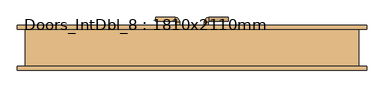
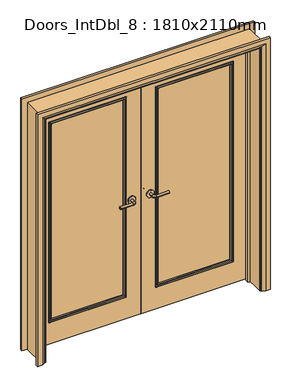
"""IFC4 building model written with IfcOpenShell, lengths in millimetres: door geometry, Doors_IntDbl_8 : 1810x2110mm."""

from ifc_helpers import new_model, si_unit, point, frame, frame_2d, origin, place, context, project, spatial, polyline, circle_curve, ellipse_curve, trimmed, segment, composite_curve, outline, extrude, faceted_brep, source, transform, mapped, element, save
from ifc_brep_helpers import plane_surface, cylinder_surface, revolved_surface, advanced_brep


def doors_intdbl_8_1810x2110mm_084b1bbc(model_context):
    return source(origin(), model_context, "Body", "SolidModel", [
        advanced_brep(
        [(-66.5, 60.0, 1007.0), (-86.5, 60.0, 1007.0), (-66.5, 30.0, 1007.0), (-86.5, 30.0, 1007.0), (-91.5, 25.0, 1007.0), (-91.5, 5.0, 1007.0), (-196.5, 5.0, 1007.0), (-196.5, 25.0, 1007.0)],
        [
            (0, 1, circle_curve(frame((-76.5, 60.0, 1007.0), z_axis=(0.0, 1.0, 0.0), x_axis=(-1.0, 0.0, 0.0)), 10.0)),
            (1, 0, circle_curve(frame((-76.5, 60.0, 1007.0), z_axis=(0.0, 1.0, 0.0), x_axis=(-1.0, 0.0, 0.0)), 10.0)),
            (0, 2),
            (2, 3, circle_curve(frame((-76.5, 30.0, 1007.0), z_axis=(0.0, 1.0, 0.0), x_axis=(-1.0, 0.0, 0.0)), 10.0)),
            (3, 1),
            (3, 2, circle_curve(frame((-76.5, 30.0, 1007.0), z_axis=(0.0, 1.0, 0.0), x_axis=(-1.0, 0.0, 0.0)), 10.0)),
            (4, 3, circle_curve(frame((-91.5, 30.0, 1007.0), z_axis=(0.0, 0.0, 1.0), x_axis=(1.0, 0.0, 0.0)), 5.0)),
            (2, 5, circle_curve(frame((-91.5, 30.0, 1007.0), z_axis=(0.0, 0.0, -1.0), x_axis=(1.0, 0.0, 0.0)), 25.0)),
            (5, 4, circle_curve(frame((-91.5, 15.0, 1007.0), z_axis=(1.0, 0.0, 0.0), x_axis=(0.0, 1.0, 0.0)), 10.0)),
            (4, 5, circle_curve(frame((-91.5, 15.0, 1007.0), z_axis=(1.0, 0.0, 0.0), x_axis=(0.0, 1.0, 0.0)), 10.0)),
            (6, 7, circle_curve(frame((-196.5, 15.0, 1007.0), z_axis=(-1.0, 0.0, 0.0), x_axis=(0.0, 1.0, 0.0)), 10.0)),
            (7, 6, circle_curve(frame((-196.5, 15.0, 1007.0), z_axis=(-1.0, 0.0, 0.0), x_axis=(0.0, 1.0, 0.0)), 10.0)),
            (5, 6),
            (7, 4),
        ],
        [
            plane_surface(frame((-76.5, 60.0, 1007.0), z_axis=(0.0, 1.0, 0.0), x_axis=(0.0, 0.0, 1.0))),
            cylinder_surface(frame((-76.5, 60.0, 1007.0), z_axis=(0.0, 1.0, 0.0), x_axis=(-1.0, 0.0, 0.0)), 10.0),
            revolved_surface(trimmed(ellipse_curve(frame((-76.5, 30.0, 1007.0), z_axis=(0.0, 1.0, 0.0), x_axis=(-1.0, 0.0, 0.0)), 10.0, 10.0), [point((-66.5, 30.0, 1007.0))], [point((-86.5, 30.0, 1007.0))], True, "CARTESIAN"), (-91.5, 30.0, 1007.0), (0.0, 0.0, -1.0)),
            revolved_surface(trimmed(ellipse_curve(frame((-76.5, 30.0, 1007.0), z_axis=(0.0, 1.0, 0.0), x_axis=(-1.0, 0.0, 0.0)), 10.0, 10.0), [point((-86.5, 30.0, 1007.0))], [point((-66.5, 30.0, 1007.0))], True, "CARTESIAN"), (-91.5, 30.0, 1007.0), (0.0, 0.0, -1.0)),
            plane_surface(frame((-196.5, 15.0, 1007.0), z_axis=(-1.0, 0.0, 0.0), x_axis=(0.0, 0.0, 1.0))),
            cylinder_surface(frame((-91.5, 15.0, 1007.0), z_axis=(1.0, 0.0, 0.0), x_axis=(0.0, 1.0, 0.0)), 10.0),
        ],
        [
            (0, [[1, 2]]),
            (1, [[-1, 3, 4, 5]]),
            (1, [[-2, -5, 6, -3]]),
            (2, [[7, -4, 8, 9]]),
            (3, [[-8, -6, -7, 10]]),
            (4, [[11, 12]]),
            (5, [[-9, 13, -12, 14]]),
            (5, [[-10, -14, -11, -13]]),
        ],
    ),
        extrude(outline(composite_curve([segment(trimmed(circle_curve(frame_2d((1007.0, -74.0)), 30.0), [point((1007.0, -44.0))], [point((1007.0, -104.0))], False, "CARTESIAN"), True, "CONTINUOUS"), segment(trimmed(circle_curve(frame_2d((1007.0, -74.0)), 30.0), [point((1007.0, -104.0))], [point((1007.0, -44.0))], False, "CARTESIAN"), True, "CONTINUOUS")], self_intersect=False)), frame((0.0, 60.0, 0.0), z_axis=(0.0, 1.0, 0.0), x_axis=(0.0, 0.0, 1.0)), (0.0, 0.0, 1.0), 8.0),
        advanced_brep(
        [(-66.5, 108.0, 1007.0), (-86.5, 108.0, 1007.0), (-86.5, 138.0, 1007.0), (-66.5, 138.0, 1007.0), (-91.5, 143.0, 1007.0), (-91.5, 163.0, 1007.0), (-196.5, 163.0, 1007.0), (-196.5, 143.0, 1007.0)],
        [
            (0, 1, circle_curve(frame((-76.5, 108.0, 1007.0), z_axis=(0.0, -1.0, 0.0), x_axis=(-1.0, 0.0, 0.0)), 10.0)),
            (1, 0, circle_curve(frame((-76.5, 108.0, 1007.0), z_axis=(0.0, -1.0, 0.0), x_axis=(-1.0, 0.0, 0.0)), 10.0)),
            (1, 2),
            (2, 3, circle_curve(frame((-76.5, 138.0, 1007.0), z_axis=(0.0, -1.0, 0.0), x_axis=(-1.0, 0.0, 0.0)), 10.0)),
            (3, 0),
            (3, 2, circle_curve(frame((-76.5, 138.0, 1007.0), z_axis=(0.0, -1.0, 0.0), x_axis=(-1.0, 0.0, 0.0)), 10.0)),
            (4, 5, circle_curve(frame((-91.5, 153.0, 1007.0), z_axis=(1.0, 0.0, 0.0), x_axis=(0.0, -1.0, 0.0)), 10.0)),
            (5, 3, circle_curve(frame((-91.5, 138.0, 1007.0), z_axis=(0.0, 0.0, -1.0), x_axis=(1.0, 0.0, 0.0)), 25.0)),
            (2, 4, circle_curve(frame((-91.5, 138.0, 1007.0), z_axis=(0.0, 0.0, 1.0), x_axis=(1.0, 0.0, 0.0)), 5.0)),
            (5, 4, circle_curve(frame((-91.5, 153.0, 1007.0), z_axis=(1.0, 0.0, 0.0), x_axis=(0.0, -1.0, 0.0)), 10.0)),
            (6, 7, circle_curve(frame((-196.5, 153.0, 1007.0), z_axis=(-1.0, 0.0, 0.0), x_axis=(0.0, -1.0, 0.0)), 10.0)),
            (7, 6, circle_curve(frame((-196.5, 153.0, 1007.0), z_axis=(-1.0, 0.0, 0.0), x_axis=(0.0, -1.0, 0.0)), 10.0)),
            (4, 7),
            (6, 5),
        ],
        [
            plane_surface(frame((-76.5, 108.0, 1007.0), z_axis=(0.0, -1.0, 0.0), x_axis=(0.0, 0.0, 1.0))),
            cylinder_surface(frame((-76.5, 108.0, 1007.0), z_axis=(0.0, -1.0, 0.0), x_axis=(-1.0, 0.0, 0.0)), 10.0),
            revolved_surface(trimmed(ellipse_curve(frame((-76.5, 138.0, 1007.0), z_axis=(0.0, 1.0, 0.0), x_axis=(-1.0, 0.0, 0.0)), 10.0, 10.0), [point((-66.5, 138.0, 1007.0))], [point((-86.5, 138.0, 1007.0))], True, "CARTESIAN"), (-91.5, 138.0, 1007.0), (0.0, 0.0, -1.0)),
            revolved_surface(trimmed(ellipse_curve(frame((-76.5, 138.0, 1007.0), z_axis=(0.0, 1.0, 0.0), x_axis=(-1.0, 0.0, 0.0)), 10.0, 10.0), [point((-86.5, 138.0, 1007.0))], [point((-66.5, 138.0, 1007.0))], True, "CARTESIAN"), (-91.5, 138.0, 1007.0), (0.0, 0.0, -1.0)),
            plane_surface(frame((-196.5, 153.0, 1007.0), z_axis=(-1.0, 0.0, 0.0), x_axis=(0.0, 0.0, 1.0))),
            cylinder_surface(frame((-91.5, 153.0, 1007.0), z_axis=(1.0, 0.0, 0.0), x_axis=(0.0, -1.0, 0.0)), 10.0),
        ],
        [
            (0, [[1, 2]]),
            (1, [[3, 4, 5, -2]]),
            (1, [[-5, 6, -3, -1]]),
            (2, [[7, 8, -4, 9]]),
            (3, [[10, -9, -6, -8]]),
            (4, [[11, 12]]),
            (5, [[13, -11, 14, -7]]),
            (5, [[-14, -12, -13, -10]]),
        ],
    ),
        extrude(outline(composite_curve([segment(trimmed(circle_curve(frame_2d((1007.0, -74.0)), 30.0), [point((1007.0, -44.0))], [point((1007.0, -104.0))], False, "CARTESIAN"), True, "CONTINUOUS"), segment(trimmed(circle_curve(frame_2d((1007.0, -74.0)), 30.0), [point((1007.0, -104.0))], [point((1007.0, -44.0))], False, "CARTESIAN"), True, "CONTINUOUS")], self_intersect=False)), frame((0.0, 100.0, 0.0), z_axis=(0.0, 1.0, 0.0), x_axis=(0.0, 0.0, 1.0)), (0.0, 0.0, 1.0), 8.0),
        advanced_brep(
        [(66.5, 60.0, 1007.0), (86.5, 60.0, 1007.0), (86.5, 30.0, 1007.0), (66.5, 30.0, 1007.0), (91.5, 25.0, 1007.0), (91.5, 5.0, 1007.0), (196.5, 5.0, 1007.0), (196.5, 25.0, 1007.0)],
        [
            (0, 1, circle_curve(frame((76.5, 60.0, 1007.0), z_axis=(0.0, 1.0, 0.0), x_axis=(1.0, 0.0, 0.0)), 10.0)),
            (1, 0, circle_curve(frame((76.5, 60.0, 1007.0), z_axis=(0.0, 1.0, 0.0), x_axis=(1.0, 0.0, 0.0)), 10.0)),
            (1, 2),
            (2, 3, circle_curve(frame((76.5, 30.0, 1007.0), z_axis=(0.0, 1.0, 0.0), x_axis=(1.0, 0.0, 0.0)), 10.0)),
            (3, 0),
            (3, 2, circle_curve(frame((76.5, 30.0, 1007.0), z_axis=(0.0, 1.0, 0.0), x_axis=(1.0, 0.0, 0.0)), 10.0)),
            (4, 5, circle_curve(frame((91.5, 15.0, 1007.0), z_axis=(-1.0, 0.0, 0.0), x_axis=(0.0, 1.0, 0.0)), 10.0)),
            (5, 3, circle_curve(frame((91.5, 30.0, 1007.0), z_axis=(0.0, 0.0, -1.0), x_axis=(-1.0, 0.0, 0.0)), 25.0)),
            (2, 4, circle_curve(frame((91.5, 30.0, 1007.0), z_axis=(0.0, 0.0, 1.0), x_axis=(-1.0, 0.0, 0.0)), 5.0)),
            (5, 4, circle_curve(frame((91.5, 15.0, 1007.0), z_axis=(-1.0, 0.0, 0.0), x_axis=(0.0, 1.0, 0.0)), 10.0)),
            (6, 7, circle_curve(frame((196.5, 15.0, 1007.0), z_axis=(1.0, 0.0, 0.0), x_axis=(0.0, 1.0, 0.0)), 10.0)),
            (7, 6, circle_curve(frame((196.5, 15.0, 1007.0), z_axis=(1.0, 0.0, 0.0), x_axis=(0.0, 1.0, 0.0)), 10.0)),
            (4, 7),
            (6, 5),
        ],
        [
            plane_surface(frame((76.5, 60.0, 1007.0), z_axis=(0.0, 1.0, 0.0), x_axis=(0.0, 0.0, 1.0))),
            cylinder_surface(frame((76.5, 60.0, 1007.0), z_axis=(0.0, 1.0, 0.0), x_axis=(1.0, 0.0, 0.0)), 10.0),
            revolved_surface(trimmed(ellipse_curve(frame((76.5, 30.0, 1007.0), z_axis=(0.0, -1.0, 0.0), x_axis=(1.0, 0.0, 0.0)), 10.0, 10.0), [point((66.5, 30.0, 1007.0))], [point((86.5, 30.0, 1007.0))], True, "CARTESIAN"), (91.5, 30.0, 1007.0), (0.0, 0.0, -1.0)),
            revolved_surface(trimmed(ellipse_curve(frame((76.5, 30.0, 1007.0), z_axis=(0.0, -1.0, 0.0), x_axis=(1.0, 0.0, 0.0)), 10.0, 10.0), [point((86.5, 30.0, 1007.0))], [point((66.5, 30.0, 1007.0))], True, "CARTESIAN"), (91.5, 30.0, 1007.0), (0.0, 0.0, -1.0)),
            plane_surface(frame((196.5, 15.0, 1007.0), z_axis=(1.0, 0.0, 0.0), x_axis=(0.0, 0.0, 1.0))),
            cylinder_surface(frame((91.5, 15.0, 1007.0), z_axis=(-1.0, 0.0, 0.0), x_axis=(0.0, 1.0, 0.0)), 10.0),
        ],
        [
            (0, [[1, 2]]),
            (1, [[3, 4, 5, -2]]),
            (1, [[-5, 6, -3, -1]]),
            (2, [[7, 8, -4, 9]]),
            (3, [[10, -9, -6, -8]]),
            (4, [[11, 12]]),
            (5, [[13, -11, 14, -7]]),
            (5, [[-14, -12, -13, -10]]),
        ],
    ),
        extrude(outline(composite_curve([segment(trimmed(circle_curve(frame_2d((1007.0, 74.0)), 30.0), [point((1007.0, 44.0))], [point((1007.0, 104.0))], False, "CARTESIAN"), True, "CONTINUOUS"), segment(trimmed(circle_curve(frame_2d((1007.0, 74.0)), 30.0), [point((1007.0, 104.0))], [point((1007.0, 44.0))], False, "CARTESIAN"), True, "CONTINUOUS")], self_intersect=False)), frame((0.0, 60.0, 0.0), z_axis=(0.0, 1.0, 0.0), x_axis=(0.0, 0.0, 1.0)), (0.0, 0.0, 1.0), 8.0),
        advanced_brep(
        [(66.5, 108.0, 1007.0), (86.5, 108.0, 1007.0), (66.5, 138.0, 1007.0), (86.5, 138.0, 1007.0), (91.5, 143.0, 1007.0), (91.5, 163.0, 1007.0), (196.5, 163.0, 1007.0), (196.5, 143.0, 1007.0)],
        [
            (0, 1, circle_curve(frame((76.5, 108.0, 1007.0), z_axis=(0.0, -1.0, 0.0), x_axis=(1.0, 0.0, 0.0)), 10.0)),
            (1, 0, circle_curve(frame((76.5, 108.0, 1007.0), z_axis=(0.0, -1.0, 0.0), x_axis=(1.0, 0.0, 0.0)), 10.0)),
            (0, 2),
            (2, 3, circle_curve(frame((76.5, 138.0, 1007.0), z_axis=(0.0, -1.0, 0.0), x_axis=(1.0, 0.0, 0.0)), 10.0)),
            (3, 1),
            (3, 2, circle_curve(frame((76.5, 138.0, 1007.0), z_axis=(0.0, -1.0, 0.0), x_axis=(1.0, 0.0, 0.0)), 10.0)),
            (4, 3, circle_curve(frame((91.5, 138.0, 1007.0), z_axis=(0.0, 0.0, 1.0), x_axis=(-1.0, 0.0, 0.0)), 5.0)),
            (2, 5, circle_curve(frame((91.5, 138.0, 1007.0), z_axis=(0.0, 0.0, -1.0), x_axis=(-1.0, 0.0, 0.0)), 25.0)),
            (5, 4, circle_curve(frame((91.5, 153.0, 1007.0), z_axis=(-1.0, 0.0, 0.0), x_axis=(0.0, -1.0, 0.0)), 10.0)),
            (4, 5, circle_curve(frame((91.5, 153.0, 1007.0), z_axis=(-1.0, 0.0, 0.0), x_axis=(0.0, -1.0, 0.0)), 10.0)),
            (6, 7, circle_curve(frame((196.5, 153.0, 1007.0), z_axis=(1.0, 0.0, 0.0), x_axis=(0.0, -1.0, 0.0)), 10.0)),
            (7, 6, circle_curve(frame((196.5, 153.0, 1007.0), z_axis=(1.0, 0.0, 0.0), x_axis=(0.0, -1.0, 0.0)), 10.0)),
            (5, 6),
            (7, 4),
        ],
        [
            plane_surface(frame((76.5, 108.0, 1007.0), z_axis=(0.0, -1.0, 0.0), x_axis=(0.0, 0.0, 1.0))),
            cylinder_surface(frame((76.5, 108.0, 1007.0), z_axis=(0.0, -1.0, 0.0), x_axis=(1.0, 0.0, 0.0)), 10.0),
            revolved_surface(trimmed(ellipse_curve(frame((76.5, 138.0, 1007.0), z_axis=(0.0, -1.0, 0.0), x_axis=(1.0, 0.0, 0.0)), 10.0, 10.0), [point((66.5, 138.0, 1007.0))], [point((86.5, 138.0, 1007.0))], True, "CARTESIAN"), (91.5, 138.0, 1007.0), (0.0, 0.0, -1.0)),
            revolved_surface(trimmed(ellipse_curve(frame((76.5, 138.0, 1007.0), z_axis=(0.0, -1.0, 0.0), x_axis=(1.0, 0.0, 0.0)), 10.0, 10.0), [point((86.5, 138.0, 1007.0))], [point((66.5, 138.0, 1007.0))], True, "CARTESIAN"), (91.5, 138.0, 1007.0), (0.0, 0.0, -1.0)),
            plane_surface(frame((196.5, 153.0, 1007.0), z_axis=(1.0, 0.0, 0.0), x_axis=(0.0, 0.0, 1.0))),
            cylinder_surface(frame((91.5, 153.0, 1007.0), z_axis=(-1.0, 0.0, 0.0), x_axis=(0.0, -1.0, 0.0)), 10.0),
        ],
        [
            (0, [[1, 2]]),
            (1, [[-1, 3, 4, 5]]),
            (1, [[-2, -5, 6, -3]]),
            (2, [[7, -4, 8, 9]]),
            (3, [[-8, -6, -7, 10]]),
            (4, [[11, 12]]),
            (5, [[-9, 13, -12, 14]]),
            (5, [[-10, -14, -11, -13]]),
        ],
    ),
        extrude(outline(composite_curve([segment(trimmed(circle_curve(frame_2d((1007.0, 74.0)), 30.0), [point((1007.0, 44.0))], [point((1007.0, 104.0))], False, "CARTESIAN"), True, "CONTINUOUS"), segment(trimmed(circle_curve(frame_2d((1007.0, 74.0)), 30.0), [point((1007.0, 104.0))], [point((1007.0, 44.0))], False, "CARTESIAN"), True, "CONTINUOUS")], self_intersect=False)), frame((0.0, 100.0, 0.0), z_axis=(0.0, 1.0, 0.0), x_axis=(0.0, 0.0, 1.0)), (0.0, 0.0, 1.0), 8.0),
        advanced_brep(
        [(-940.0, -120.0, 0.0), (-940.0, -100.0, 0.0), (-870.0, -100.0, 0.0), (-874.0, -106.0, 0.0), (-900.0, -120.0, 0.0), (-940.0, -120.0, 2145.0), (-940.0, -100.0, 2145.0), (940.0, -100.0, 2145.0), (940.0, -100.0, 0.0), (870.0, -100.0, 0.0), (870.0, -100.0, 2075.0), (-870.0, -100.0, 2075.0), (-874.0, -106.0, 2079.0), (-900.0, -120.0, 2105.0), (900.0, -120.0, 2105.0), (900.0, -120.0, 0.0), (940.0, -120.0, 0.0), (940.0, -120.0, 2145.0), (874.0, -106.0, 0.0), (874.0, -106.0, 2079.0)],
        [
            (0, 1),
            (1, 2),
            (2, 3, circle_curve(frame((-878.0, -99.0, 0.0), z_axis=(0.0, 0.0, -1.0), x_axis=(-1.0, 0.0, 0.0)), 8.0622577)),
            (3, 4),
            (4, 0),
            (0, 5),
            (5, 6),
            (6, 1),
            (6, 7),
            (7, 8),
            (8, 9),
            (9, 10),
            (10, 11),
            (11, 2),
            (11, 12, ellipse_curve(frame((-878.0, -99.0, 2083.0), z_axis=(-0.7071067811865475, 0.0, -0.7071067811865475), x_axis=(0.7071067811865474, 0.0, -0.7071067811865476)), 11.4017543, 8.0622577)),
            (12, 3),
            (12, 13),
            (13, 4),
            (13, 14),
            (14, 15),
            (15, 16),
            (16, 17),
            (17, 5),
            (7, 17),
            (16, 8),
            (15, 18),
            (18, 9, circle_curve(frame((878.0, -99.0, 0.0), z_axis=(0.0, 0.0, -1.0), x_axis=(1.0, 0.0, 0.0)), 8.0622577)),
            (19, 10, ellipse_curve(frame((878.0, -99.0, 2083.0), z_axis=(0.7071067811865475, 0.0, -0.7071067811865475), x_axis=(0.7071067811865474, 0.0, 0.7071067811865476)), 11.4017543, 8.0622577)),
            (18, 19),
            (14, 19),
            (19, 12),
        ],
        [
            plane_surface(frame((-870.0, -100.0, 0.0), z_axis=(0.0, 0.0, -1.0), x_axis=(0.0, -1.0, 0.0))),
            plane_surface(frame((-940.0, -120.0, 0.0), z_axis=(-1.0, 0.0, 0.0), x_axis=(0.0, 0.0, 1.0))),
            plane_surface(frame((-940.0, -100.0, 0.0), z_axis=(0.0, 1.0, 0.0), x_axis=(0.0, 0.0, 1.0))),
            cylinder_surface(frame((-878.0, -99.0, 0.0), z_axis=(0.0, 0.0, -1.0), x_axis=(-1.0, 0.0, 0.0)), 8.0622577),
            plane_surface(frame((-874.0, -106.0, 0.0), z_axis=(0.4740998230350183, -0.8804710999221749, 0.0), x_axis=(0.0, 0.0, 1.0))),
            plane_surface(frame((-900.0, -120.0, 0.0), z_axis=(0.0, -1.0, 0.0), x_axis=(0.0, 0.0, 1.0))),
            plane_surface(frame((940.0, -120.0, 2145.0), z_axis=(1.0, 0.0, 0.0), x_axis=(0.0, 0.0, -1.0))),
            plane_surface(frame((870.0, -100.0, 0.0), z_axis=(0.0, 0.0, -1.0), x_axis=(0.0, -1.0, 0.0))),
            cylinder_surface(frame((878.0, -99.0, 2075.0), z_axis=(0.0, 0.0, 1.0), x_axis=(1.0, 0.0, 0.0)), 8.0622577),
            plane_surface(frame((874.0, -106.0, 2079.0), z_axis=(-0.4740998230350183, -0.8804710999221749, 0.0), x_axis=(0.0, 0.0, -1.0))),
            plane_surface(frame((-940.0, -120.0, 2145.0), z_axis=(0.0, 0.0, 1.0), x_axis=(1.0, 0.0, 0.0))),
            cylinder_surface(frame((-870.0, -99.0, 2083.0), z_axis=(-1.0, 0.0, 0.0), x_axis=(0.0, 0.0, 1.0)), 8.0622577),
            plane_surface(frame((-874.0, -106.0, 2079.0), z_axis=(0.0, -0.8804710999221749, -0.4740998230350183), x_axis=(1.0, 0.0, 0.0))),
        ],
        [
            (0, [[1, 2, 3, 4, 5]]),
            (1, [[-1, 6, 7, 8]]),
            (2, [[-2, -8, 9, 10, 11, 12, 13, 14]]),
            (3, [[-3, -14, 15, 16]]),
            (4, [[-4, -16, 17, 18]]),
            (5, [[-5, -18, 19, 20, 21, 22, 23, -6]]),
            (6, [[24, -22, 25, -10]]),
            (7, [[-21, 26, 27, -11, -25]]),
            (8, [[28, -12, -27, 29]]),
            (9, [[30, -29, -26, -20]]),
            (10, [[-7, -23, -24, -9]]),
            (11, [[-15, -13, -28, 31]]),
            (12, [[-17, -31, -30, -19]]),
        ],
    ),
        advanced_brep(
        [(940.0, 120.0, 0.0), (940.0, 100.0, 0.0), (870.0, 100.0, 0.0), (874.0, 106.0, 0.0), (900.0, 120.0, 0.0), (940.0, 120.0, 2145.0), (940.0, 100.0, 2145.0), (-940.0, 100.0, 2145.0), (-940.0, 100.0, 0.0), (-870.0, 100.0, 0.0), (-870.0, 100.0, 2075.0), (870.0, 100.0, 2075.0), (874.0, 106.0, 2079.0), (900.0, 120.0, 2105.0), (-900.0, 120.0, 2105.0), (-900.0, 120.0, 0.0), (-940.0, 120.0, 0.0), (-940.0, 120.0, 2145.0), (-874.0, 106.0, 0.0), (-874.0, 106.0, 2079.0)],
        [
            (0, 1),
            (1, 2),
            (2, 3, circle_curve(frame((878.0, 99.0, 0.0), z_axis=(0.0, 0.0, -1.0), x_axis=(1.0, 0.0, 0.0)), 8.0622577)),
            (3, 4),
            (4, 0),
            (0, 5),
            (5, 6),
            (6, 1),
            (6, 7),
            (7, 8),
            (8, 9),
            (9, 10),
            (10, 11),
            (11, 2),
            (11, 12, ellipse_curve(frame((878.0, 99.0, 2083.0), z_axis=(0.7071067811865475, 0.0, -0.7071067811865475), x_axis=(-0.7071067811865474, 0.0, -0.7071067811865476)), 11.4017543, 8.0622577)),
            (12, 3),
            (12, 13),
            (13, 4),
            (13, 14),
            (14, 15),
            (15, 16),
            (16, 17),
            (17, 5),
            (7, 17),
            (16, 8),
            (15, 18),
            (18, 9, circle_curve(frame((-878.0, 99.0, 0.0), z_axis=(0.0, 0.0, -1.0), x_axis=(-1.0, 0.0, 0.0)), 8.0622577)),
            (19, 10, ellipse_curve(frame((-878.0, 99.0, 2083.0), z_axis=(-0.7071067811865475, 0.0, -0.7071067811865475), x_axis=(-0.7071067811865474, 0.0, 0.7071067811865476)), 11.4017543, 8.0622577)),
            (18, 19),
            (14, 19),
            (19, 12),
        ],
        [
            plane_surface(frame((870.0, 100.0, 0.0), z_axis=(0.0, 0.0, -1.0), x_axis=(0.0, -1.0, 0.0))),
            plane_surface(frame((940.0, 120.0, 0.0), z_axis=(1.0, 0.0, 0.0), x_axis=(0.0, 0.0, 1.0))),
            plane_surface(frame((940.0, 100.0, 0.0), z_axis=(0.0, -1.0, 0.0), x_axis=(0.0, 0.0, 1.0))),
            cylinder_surface(frame((878.0, 99.0, 0.0), z_axis=(0.0, 0.0, -1.0), x_axis=(1.0, 0.0, 0.0)), 8.0622577),
            plane_surface(frame((874.0, 106.0, 0.0), z_axis=(-0.4740998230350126, 0.8804710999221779, 0.0), x_axis=(0.0, 0.0, 1.0))),
            plane_surface(frame((900.0, 120.0, 0.0), z_axis=(0.0, 1.0, 0.0), x_axis=(0.0, 0.0, 1.0))),
            plane_surface(frame((-940.0, 120.0, 2145.0), z_axis=(-1.0, 0.0, 0.0), x_axis=(0.0, 0.0, -1.0))),
            plane_surface(frame((-870.0, 100.0, 0.0), z_axis=(0.0, 0.0, -1.0), x_axis=(0.0, -1.0, 0.0))),
            cylinder_surface(frame((-878.0, 99.0, 2075.0), z_axis=(0.0, 0.0, 1.0), x_axis=(-1.0, 0.0, 0.0)), 8.0622577),
            plane_surface(frame((-874.0, 106.0, 2079.0), z_axis=(0.4740998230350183, 0.8804710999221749, 0.0), x_axis=(0.0, 0.0, -1.0))),
            plane_surface(frame((940.0, 120.0, 2145.0), z_axis=(0.0, 0.0, 1.0), x_axis=(-1.0, 0.0, 0.0))),
            cylinder_surface(frame((870.0, 99.0, 2083.0), z_axis=(1.0, 0.0, 0.0), x_axis=(0.0, 0.0, 1.0)), 8.0622577),
            plane_surface(frame((874.0, 106.0, 2079.0), z_axis=(0.0, 0.8804710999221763, -0.4740998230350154), x_axis=(-1.0, 0.0, 0.0))),
        ],
        [
            (0, [[1, 2, 3, 4, 5]]),
            (1, [[-1, 6, 7, 8]]),
            (2, [[-2, -8, 9, 10, 11, 12, 13, 14]]),
            (3, [[-3, -14, 15, 16]]),
            (4, [[-4, -16, 17, 18]]),
            (5, [[-5, -18, 19, 20, 21, 22, 23, -6]]),
            (6, [[24, -22, 25, -10]]),
            (7, [[-21, 26, 27, -11, -25]]),
            (8, [[28, -12, -27, 29]]),
            (9, [[30, -29, -26, -20]]),
            (10, [[-7, -23, -24, -9]]),
            (11, [[-15, -13, -28, 31]]),
            (12, [[-17, -31, -30, -19]]),
        ],
    ),
        faceted_brep([(-846.0, 65.0, 0.0), (-846.0, 33.0, 0.0), (-865.0, 33.0, 0.0), (-865.0, 65.0, 0.0), (-846.0, 65.0, 2051.0), (-846.0, 33.0, 2051.0), (-865.0, 33.0, 2070.0), (-865.0, 65.0, 2070.0), (846.0, 65.0, 0.0), (865.0, 65.0, 0.0), (865.0, 33.0, 0.0), (846.0, 33.0, 0.0), (846.0, 65.0, 2051.0), (865.0, 65.0, 2070.0), (865.0, 33.0, 2070.0), (846.0, 33.0, 2051.0)], [[[0, 1, 2, 3]], [[1, 0, 4, 5]], [[2, 1, 5, 6]], [[3, 2, 6, 7]], [[0, 3, 7, 4]], [[8, 9, 10, 11]], [[12, 13, 9, 8]], [[13, 14, 10, 9]], [[14, 15, 11, 10]], [[15, 12, 8, 11]], [[5, 4, 12, 15]], [[6, 5, 15, 14]], [[7, 6, 14, 13]], [[4, 7, 13, 12]]]),
        extrude(outline(polyline([(2102.0, -897.0), (0.0, -897.0), (0.0, -865.0), (2070.0, -865.0), (2070.0, 865.0), (0.0, 865.0), (0.0, 897.0), (2102.0, 897.0), (2102.0, -897.0)])), frame((0.0, -100.0, 0.0), z_axis=(0.0, 1.0, 0.0), x_axis=(0.0, 0.0, 1.0)), (0.0, 0.0, 1.0), 200.0),
        extrude(outline(polyline([(-126.5, 78.0), (-737.0, 78.0), (-737.0, 90.0), (-126.5, 90.0), (-126.5, 78.0)])), frame((0.0, 0.0, 200.0), z_axis=(0.0, 0.0, 1.0), x_axis=(1.0, 0.0, 0.0)), (0.0, 0.0, 1.0), 1692.0),
        extrude(outline(polyline([(737.0, 78.0), (126.5, 78.0), (126.5, 90.0), (737.0, 90.0), (737.0, 78.0)])), frame((0.0, 0.0, 200.0), z_axis=(0.0, 0.0, 1.0), x_axis=(1.0, 0.0, 0.0)), (0.0, 0.0, 1.0), 1692.0),
        extrude(outline(polyline([(5.753223, -862.0), (5.753223, -1.5), (2067.0, -1.5), (2067.0, -862.0), (5.753223, -862.0)]), holes=[polyline([(1892.0, -737.0), (1892.0, -126.5), (200.0, -126.5), (200.0, -737.0), (1892.0, -737.0)])]), frame((0.0, 68.0, 0.0), z_axis=(0.0, 1.0, 0.0), x_axis=(0.0, 0.0, 1.0)), (0.0, 0.0, 1.0), 32.0),
        extrude(outline(polyline([(5.753223, 862.0), (2067.0, 862.0), (2067.0, 1.5), (5.753223, 1.5), (5.753223, 862.0)]), holes=[polyline([(1892.0, 126.5), (1892.0, 737.0), (200.0, 737.0), (200.0, 126.5), (1892.0, 126.5)])]), frame((0.0, 68.0, 0.0), z_axis=(0.0, 1.0, 0.0), x_axis=(0.0, 0.0, 1.0)), (0.0, 0.0, 1.0), 32.0),
        advanced_brep(
        [(-737.0, 90.0, 1892.0), (-737.0, 100.0, 1892.0), (-737.0, 100.0, 200.0), (-737.0, 90.0, 200.0), (-725.0, 101.0, 1880.0), (-725.0, 90.0, 1880.0), (-725.0, 90.0, 212.0), (-725.0, 101.0, 212.0), (-730.0, 106.0, 1885.0), (-730.0, 106.0, 207.0), (-745.0, 104.0, 1900.0), (-743.0, 106.0, 1898.0), (-743.0, 106.0, 194.0), (-745.0, 104.0, 192.0), (-745.0, 100.0, 1900.0), (-745.0, 100.0, 192.0), (-126.5, 100.0, 200.0), (-126.5, 90.0, 200.0), (-138.5, 90.0, 212.0), (-138.5, 101.0, 212.0), (-133.5, 106.0, 207.0), (-120.5, 106.0, 194.0), (-118.5, 104.0, 192.0), (-118.5, 100.0, 192.0), (-126.5, 100.0, 1892.0), (-126.5, 90.0, 1892.0), (-138.5, 90.0, 1880.0), (-138.5, 101.0, 1880.0), (-133.5, 106.0, 1885.0), (-120.5, 106.0, 1898.0), (-118.5, 104.0, 1900.0), (-118.5, 100.0, 1900.0)],
        [
            (0, 1),
            (1, 2),
            (2, 3),
            (3, 0),
            (4, 5),
            (5, 6),
            (6, 7),
            (7, 4),
            (8, 4, ellipse_curve(frame((-730.0, 101.0, 1885.0), z_axis=(-0.7071067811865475, 0.0, -0.7071067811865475), x_axis=(-0.7071067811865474, 0.0, 0.7071067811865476)), 7.0710678, 5.0)),
            (7, 9, ellipse_curve(frame((-730.0, 101.0, 207.0), z_axis=(-0.7071067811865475, 0.0, 0.7071067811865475), x_axis=(0.7071067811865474, 0.0, 0.7071067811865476)), 7.0710678, 5.0)),
            (9, 8),
            (10, 11, ellipse_curve(frame((-743.0, 104.0, 1898.0), z_axis=(-0.7071067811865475, 0.0, -0.7071067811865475), x_axis=(-0.7071067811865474, 0.0, 0.7071067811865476)), 2.8284271, 2.0)),
            (11, 12),
            (12, 13, ellipse_curve(frame((-743.0, 104.0, 194.0), z_axis=(-0.7071067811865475, 0.0, 0.7071067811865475), x_axis=(0.7071067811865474, 0.0, 0.7071067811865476)), 2.8284271, 2.0)),
            (13, 10),
            (14, 10),
            (13, 15),
            (15, 14),
            (2, 16),
            (16, 17),
            (17, 3),
            (6, 18),
            (18, 19),
            (19, 7),
            (19, 20, ellipse_curve(frame((-133.5, 101.0, 207.0), z_axis=(-0.7071067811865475, 0.0, -0.7071067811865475), x_axis=(-0.7071067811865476, 0.0, 0.7071067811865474)), 7.0710678, 5.0)),
            (20, 9),
            (12, 21),
            (21, 22, ellipse_curve(frame((-120.5, 104.0, 194.0), z_axis=(-0.7071067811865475, 0.0, -0.7071067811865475), x_axis=(-0.7071067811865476, 0.0, 0.7071067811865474)), 2.8284271, 2.0)),
            (22, 13),
            (22, 23),
            (23, 15),
            (16, 24),
            (24, 25),
            (25, 17),
            (18, 26),
            (26, 27),
            (27, 19),
            (27, 28, ellipse_curve(frame((-133.5, 101.0, 1885.0), z_axis=(0.7071067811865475, 0.0, -0.7071067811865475), x_axis=(-0.7071067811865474, 0.0, -0.7071067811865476)), 7.0710678, 5.0)),
            (28, 20),
            (21, 29),
            (29, 30, ellipse_curve(frame((-120.5, 104.0, 1898.0), z_axis=(0.7071067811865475, 0.0, -0.7071067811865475), x_axis=(-0.7071067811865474, 0.0, -0.7071067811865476)), 2.8284271, 2.0)),
            (30, 22),
            (30, 31),
            (31, 23),
            (31, 14),
            (1, 24),
            (0, 25),
            (5, 26),
            (4, 27),
            (8, 28),
            (11, 29),
            (10, 30),
        ],
        [
            plane_surface(frame((-737.0, 100.0, 1892.0), z_axis=(-1.0, 0.0, 0.0), x_axis=(0.0, 0.0, -1.0))),
            plane_surface(frame((-725.0, 90.0, 1880.0), z_axis=(1.0, 0.0, 0.0), x_axis=(0.0, 0.0, -1.0))),
            cylinder_surface(frame((-730.0, 101.0, 1892.0), z_axis=(0.0, 0.0, 1.0), x_axis=(-1.0, 0.0, 0.0)), 5.0),
            cylinder_surface(frame((-743.0, 104.0, 1892.0), z_axis=(0.0, 0.0, 1.0), x_axis=(-1.0, 0.0, 0.0)), 2.0),
            plane_surface(frame((-745.0, 104.0, 1900.0), z_axis=(-1.0, 0.0, 0.0), x_axis=(0.0, 0.0, -1.0))),
            plane_surface(frame((-737.0, 100.0, 200.0), z_axis=(0.0, 0.0, -1.0), x_axis=(1.0, 0.0, 0.0))),
            plane_surface(frame((-725.0, 90.0, 212.0), z_axis=(0.0, 0.0, 1.0), x_axis=(1.0, 0.0, 0.0))),
            cylinder_surface(frame((-737.0, 101.0, 207.0), z_axis=(-1.0, 0.0, 0.0), x_axis=(0.0, 0.0, -1.0)), 5.0),
            cylinder_surface(frame((-737.0, 104.0, 194.0), z_axis=(-1.0, 0.0, 0.0), x_axis=(0.0, 0.0, -1.0)), 2.0),
            plane_surface(frame((-745.0, 104.0, 192.0), z_axis=(0.0, 0.0, -1.0), x_axis=(1.0, 0.0, 0.0))),
            plane_surface(frame((-126.5, 100.0, 200.0), z_axis=(1.0, 0.0, 0.0), x_axis=(0.0, 0.0, 1.0))),
            plane_surface(frame((-138.5, 90.0, 212.0), z_axis=(-1.0, 0.0, 0.0), x_axis=(0.0, 0.0, 1.0))),
            cylinder_surface(frame((-133.5, 101.0, 200.0), z_axis=(0.0, 0.0, -1.0), x_axis=(1.0, 0.0, 0.0)), 5.0),
            cylinder_surface(frame((-120.5, 104.0, 200.0), z_axis=(0.0, 0.0, -1.0), x_axis=(1.0, 0.0, 0.0)), 2.0),
            plane_surface(frame((-118.5, 104.0, 192.0), z_axis=(1.0, 0.0, 0.0), x_axis=(0.0, 0.0, 1.0))),
            plane_surface(frame((-118.5, 100.0, 1900.0), z_axis=(0.0, -1.0, 0.0), x_axis=(-1.0, 0.0, 0.0))),
            plane_surface(frame((-126.5, 100.0, 1892.0), z_axis=(0.0, 0.0, 1.0), x_axis=(-1.0, 0.0, 0.0))),
            plane_surface(frame((-126.5, 90.0, 1892.0), z_axis=(0.0, -1.0, 0.0), x_axis=(-1.0, 0.0, 0.0))),
            plane_surface(frame((-138.5, 90.0, 1880.0), z_axis=(0.0, 0.0, -1.0), x_axis=(-1.0, 0.0, 0.0))),
            cylinder_surface(frame((-126.5, 101.0, 1885.0), z_axis=(1.0, 0.0, 0.0), x_axis=(0.0, 0.0, 1.0)), 5.0),
            plane_surface(frame((-133.5, 106.0, 1885.0), z_axis=(0.0, 1.0, 0.0), x_axis=(-1.0, 0.0, 0.0))),
            cylinder_surface(frame((-126.5, 104.0, 1898.0), z_axis=(1.0, 0.0, 0.0), x_axis=(0.0, 0.0, 1.0)), 2.0),
            plane_surface(frame((-118.5, 104.0, 1900.0), z_axis=(0.0, 0.0, 1.0), x_axis=(-1.0, 0.0, 0.0))),
        ],
        [
            (0, [[1, 2, 3, 4]]),
            (1, [[5, 6, 7, 8]]),
            (2, [[9, -8, 10, 11]]),
            (3, [[12, 13, 14, 15]]),
            (4, [[16, -15, 17, 18]]),
            (5, [[-3, 19, 20, 21]]),
            (6, [[-7, 22, 23, 24]]),
            (7, [[-10, -24, 25, 26]]),
            (8, [[-14, 27, 28, 29]]),
            (9, [[-17, -29, 30, 31]]),
            (10, [[-20, 32, 33, 34]]),
            (11, [[-23, 35, 36, 37]]),
            (12, [[-25, -37, 38, 39]]),
            (13, [[-28, 40, 41, 42]]),
            (14, [[-30, -42, 43, 44]]),
            (15, [[-31, -44, 45, -18], [46, -32, -19, -2]]),
            (16, [[-33, -46, -1, 47]]),
            (17, [[-21, -34, -47, -4], [48, -35, -22, -6]]),
            (18, [[-36, -48, -5, 49]]),
            (19, [[-38, -49, -9, 50]]),
            (20, [[51, -40, -27, -13], [-26, -39, -50, -11]]),
            (21, [[-41, -51, -12, 52]]),
            (22, [[-43, -52, -16, -45]]),
        ],
    ),
        advanced_brep(
        [(737.0, 78.0, 1892.0), (737.0, 68.0, 1892.0), (737.0, 68.0, 200.0), (737.0, 78.0, 200.0), (725.0, 67.0, 1880.0), (725.0, 78.0, 1880.0), (725.0, 78.0, 212.0), (725.0, 67.0, 212.0), (730.0, 62.0, 1885.0), (730.0, 62.0, 207.0), (745.0, 64.0, 1900.0), (743.0, 62.0, 1898.0), (743.0, 62.0, 194.0), (745.0, 64.0, 192.0), (745.0, 68.0, 1900.0), (745.0, 68.0, 192.0), (126.5, 68.0, 200.0), (126.5, 78.0, 200.0), (138.5, 78.0, 212.0), (138.5, 67.0, 212.0), (133.5, 62.0, 207.0), (120.5, 62.0, 194.0), (118.5, 64.0, 192.0), (118.5, 68.0, 192.0), (126.5, 68.0, 1892.0), (126.5, 78.0, 1892.0), (138.5, 78.0, 1880.0), (138.5, 67.0, 1880.0), (133.5, 62.0, 1885.0), (120.5, 62.0, 1898.0), (118.5, 64.0, 1900.0), (118.5, 68.0, 1900.0)],
        [
            (0, 1),
            (1, 2),
            (2, 3),
            (3, 0),
            (4, 5),
            (5, 6),
            (6, 7),
            (7, 4),
            (8, 4, ellipse_curve(frame((730.0, 67.0, 1885.0), z_axis=(0.7071067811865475, 0.0, -0.7071067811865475), x_axis=(0.7071067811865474, 0.0, 0.7071067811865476)), 7.0710678, 5.0)),
            (7, 9, ellipse_curve(frame((730.0, 67.0, 207.0), z_axis=(0.7071067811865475, 0.0, 0.7071067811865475), x_axis=(-0.7071067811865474, 0.0, 0.7071067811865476)), 7.0710678, 5.0)),
            (9, 8),
            (10, 11, ellipse_curve(frame((743.0, 64.0, 1898.0), z_axis=(0.7071067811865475, 0.0, -0.7071067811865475), x_axis=(0.7071067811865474, 0.0, 0.7071067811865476)), 2.8284271, 2.0)),
            (11, 12),
            (12, 13, ellipse_curve(frame((743.0, 64.0, 194.0), z_axis=(0.7071067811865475, 0.0, 0.7071067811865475), x_axis=(-0.7071067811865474, 0.0, 0.7071067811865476)), 2.8284271, 2.0)),
            (13, 10),
            (14, 10),
            (13, 15),
            (15, 14),
            (2, 16),
            (16, 17),
            (17, 3),
            (6, 18),
            (18, 19),
            (19, 7),
            (19, 20, ellipse_curve(frame((133.5, 67.0, 207.0), z_axis=(0.7071067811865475, 0.0, -0.7071067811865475), x_axis=(0.7071067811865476, 0.0, 0.7071067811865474)), 7.0710678, 5.0)),
            (20, 9),
            (12, 21),
            (21, 22, ellipse_curve(frame((120.5, 64.0, 194.0), z_axis=(0.7071067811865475, 0.0, -0.7071067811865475), x_axis=(0.7071067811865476, 0.0, 0.7071067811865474)), 2.8284271, 2.0)),
            (22, 13),
            (22, 23),
            (23, 15),
            (16, 24),
            (24, 25),
            (25, 17),
            (18, 26),
            (26, 27),
            (27, 19),
            (27, 28, ellipse_curve(frame((133.5, 67.0, 1885.0), z_axis=(-0.7071067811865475, 0.0, -0.7071067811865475), x_axis=(0.7071067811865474, 0.0, -0.7071067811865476)), 7.0710678, 5.0)),
            (28, 20),
            (21, 29),
            (29, 30, ellipse_curve(frame((120.5, 64.0, 1898.0), z_axis=(-0.7071067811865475, 0.0, -0.7071067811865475), x_axis=(0.7071067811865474, 0.0, -0.7071067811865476)), 2.8284271, 2.0)),
            (30, 22),
            (30, 31),
            (31, 23),
            (31, 14),
            (1, 24),
            (0, 25),
            (5, 26),
            (4, 27),
            (8, 28),
            (11, 29),
            (10, 30),
        ],
        [
            plane_surface(frame((737.0, 68.0, 1892.0), z_axis=(1.0, 0.0, 0.0), x_axis=(0.0, 0.0, -1.0))),
            plane_surface(frame((725.0, 78.0, 1880.0), z_axis=(-1.0, 0.0, 0.0), x_axis=(0.0, 0.0, -1.0))),
            cylinder_surface(frame((730.0, 67.0, 1892.0), z_axis=(0.0, 0.0, 1.0), x_axis=(1.0, 0.0, 0.0)), 5.0),
            cylinder_surface(frame((743.0, 64.0, 1892.0), z_axis=(0.0, 0.0, 1.0), x_axis=(1.0, 0.0, 0.0)), 2.0),
            plane_surface(frame((745.0, 64.0, 1900.0), z_axis=(1.0, 0.0, 0.0), x_axis=(0.0, 0.0, -1.0))),
            plane_surface(frame((737.0, 68.0, 200.0), z_axis=(0.0, 0.0, -1.0), x_axis=(-1.0, 0.0, 0.0))),
            plane_surface(frame((725.0, 78.0, 212.0), z_axis=(0.0, 0.0, 1.0), x_axis=(-1.0, 0.0, 0.0))),
            cylinder_surface(frame((737.0, 67.0, 207.0), z_axis=(1.0, 0.0, 0.0), x_axis=(0.0, 0.0, -1.0)), 5.0),
            cylinder_surface(frame((737.0, 64.0, 194.0), z_axis=(1.0, 0.0, 0.0), x_axis=(0.0, 0.0, -1.0)), 2.0),
            plane_surface(frame((745.0, 64.0, 192.0), z_axis=(0.0, 0.0, -1.0), x_axis=(-1.0, 0.0, 0.0))),
            plane_surface(frame((126.5, 68.0, 200.0), z_axis=(-1.0, 0.0, 0.0), x_axis=(0.0, 0.0, 1.0))),
            plane_surface(frame((138.5, 78.0, 212.0), z_axis=(1.0, 0.0, 0.0), x_axis=(0.0, 0.0, 1.0))),
            cylinder_surface(frame((133.5, 67.0, 200.0), z_axis=(0.0, 0.0, -1.0), x_axis=(-1.0, 0.0, 0.0)), 5.0),
            cylinder_surface(frame((120.5, 64.0, 200.0), z_axis=(0.0, 0.0, -1.0), x_axis=(-1.0, 0.0, 0.0)), 2.0),
            plane_surface(frame((118.5, 64.0, 192.0), z_axis=(-1.0, 0.0, 0.0), x_axis=(0.0, 0.0, 1.0))),
            plane_surface(frame((118.5, 68.0, 1900.0), z_axis=(0.0, 1.0, 0.0), x_axis=(1.0, 0.0, 0.0))),
            plane_surface(frame((126.5, 68.0, 1892.0), z_axis=(0.0, 0.0, 1.0), x_axis=(1.0, 0.0, 0.0))),
            plane_surface(frame((126.5, 78.0, 1892.0), z_axis=(0.0, 1.0, 0.0), x_axis=(1.0, 0.0, 0.0))),
            plane_surface(frame((138.5, 78.0, 1880.0), z_axis=(0.0, 0.0, -1.0), x_axis=(1.0, 0.0, 0.0))),
            cylinder_surface(frame((126.5, 67.0, 1885.0), z_axis=(-1.0, 0.0, 0.0), x_axis=(0.0, 0.0, 1.0)), 5.0),
            plane_surface(frame((133.5, 62.0, 1885.0), z_axis=(0.0, -1.0, 0.0), x_axis=(1.0, 0.0, 0.0))),
            cylinder_surface(frame((126.5, 64.0, 1898.0), z_axis=(-1.0, 0.0, 0.0), x_axis=(0.0, 0.0, 1.0)), 2.0),
            plane_surface(frame((118.5, 64.0, 1900.0), z_axis=(0.0, 0.0, 1.0), x_axis=(1.0, 0.0, 0.0))),
        ],
        [
            (0, [[1, 2, 3, 4]]),
            (1, [[5, 6, 7, 8]]),
            (2, [[9, -8, 10, 11]]),
            (3, [[12, 13, 14, 15]]),
            (4, [[16, -15, 17, 18]]),
            (5, [[-3, 19, 20, 21]]),
            (6, [[-7, 22, 23, 24]]),
            (7, [[-10, -24, 25, 26]]),
            (8, [[-14, 27, 28, 29]]),
            (9, [[-17, -29, 30, 31]]),
            (10, [[-20, 32, 33, 34]]),
            (11, [[-23, 35, 36, 37]]),
            (12, [[-25, -37, 38, 39]]),
            (13, [[-28, 40, 41, 42]]),
            (14, [[-30, -42, 43, 44]]),
            (15, [[-31, -44, 45, -18], [46, -32, -19, -2]]),
            (16, [[-33, -46, -1, 47]]),
            (17, [[-21, -34, -47, -4], [48, -35, -22, -6]]),
            (18, [[-36, -48, -5, 49]]),
            (19, [[-38, -49, -9, 50]]),
            (20, [[51, -40, -27, -13], [-26, -39, -50, -11]]),
            (21, [[-41, -51, -12, 52]]),
            (22, [[-43, -52, -16, -45]]),
        ],
    ),
        advanced_brep(
        [(-126.5, 78.0, 1892.0), (-126.5, 68.0, 1892.0), (-126.5, 68.0, 200.0), (-126.5, 78.0, 200.0), (-138.5, 67.0, 1880.0), (-138.5, 78.0, 1880.0), (-138.5, 78.0, 212.0), (-138.5, 67.0, 212.0), (-133.5, 62.0, 1885.0), (-133.5, 62.0, 207.0), (-118.5, 64.0, 1900.0), (-120.5, 62.0, 1898.0), (-120.5, 62.0, 194.0), (-118.5, 64.0, 192.0), (-118.5, 68.0, 1900.0), (-118.5, 68.0, 192.0), (-737.0, 68.0, 200.0), (-737.0, 78.0, 200.0), (-725.0, 78.0, 212.0), (-725.0, 67.0, 212.0), (-730.0, 62.0, 207.0), (-743.0, 62.0, 194.0), (-745.0, 64.0, 192.0), (-745.0, 68.0, 192.0), (-737.0, 68.0, 1892.0), (-737.0, 78.0, 1892.0), (-725.0, 78.0, 1880.0), (-725.0, 67.0, 1880.0), (-730.0, 62.0, 1885.0), (-743.0, 62.0, 1898.0), (-745.0, 64.0, 1900.0), (-745.0, 68.0, 1900.0)],
        [
            (0, 1),
            (1, 2),
            (2, 3),
            (3, 0),
            (4, 5),
            (5, 6),
            (6, 7),
            (7, 4),
            (8, 4, ellipse_curve(frame((-133.5, 67.0, 1885.0), z_axis=(0.7071067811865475, 0.0, -0.7071067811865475), x_axis=(0.7071067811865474, 0.0, 0.7071067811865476)), 7.0710678, 5.0)),
            (7, 9, ellipse_curve(frame((-133.5, 67.0, 207.0), z_axis=(0.7071067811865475, 0.0, 0.7071067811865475), x_axis=(-0.7071067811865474, 0.0, 0.7071067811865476)), 7.0710678, 5.0)),
            (9, 8),
            (10, 11, ellipse_curve(frame((-120.5, 64.0, 1898.0), z_axis=(0.7071067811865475, 0.0, -0.7071067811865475), x_axis=(0.7071067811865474, 0.0, 0.7071067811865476)), 2.8284271, 2.0)),
            (11, 12),
            (12, 13, ellipse_curve(frame((-120.5, 64.0, 194.0), z_axis=(0.7071067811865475, 0.0, 0.7071067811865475), x_axis=(-0.7071067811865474, 0.0, 0.7071067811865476)), 2.8284271, 2.0)),
            (13, 10),
            (14, 10),
            (13, 15),
            (15, 14),
            (2, 16),
            (16, 17),
            (17, 3),
            (6, 18),
            (18, 19),
            (19, 7),
            (19, 20, ellipse_curve(frame((-730.0, 67.0, 207.0), z_axis=(0.7071067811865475, 0.0, -0.7071067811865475), x_axis=(0.7071067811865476, 0.0, 0.7071067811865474)), 7.0710678, 5.0)),
            (20, 9),
            (12, 21),
            (21, 22, ellipse_curve(frame((-743.0, 64.0, 194.0), z_axis=(0.7071067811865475, 0.0, -0.7071067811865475), x_axis=(0.7071067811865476, 0.0, 0.7071067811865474)), 2.8284271, 2.0)),
            (22, 13),
            (22, 23),
            (23, 15),
            (16, 24),
            (24, 25),
            (25, 17),
            (18, 26),
            (26, 27),
            (27, 19),
            (27, 28, ellipse_curve(frame((-730.0, 67.0, 1885.0), z_axis=(-0.7071067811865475, 0.0, -0.7071067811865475), x_axis=(0.7071067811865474, 0.0, -0.7071067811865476)), 7.0710678, 5.0)),
            (28, 20),
            (21, 29),
            (29, 30, ellipse_curve(frame((-743.0, 64.0, 1898.0), z_axis=(-0.7071067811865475, 0.0, -0.7071067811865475), x_axis=(0.7071067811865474, 0.0, -0.7071067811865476)), 2.8284271, 2.0)),
            (30, 22),
            (30, 31),
            (31, 23),
            (31, 14),
            (1, 24),
            (0, 25),
            (5, 26),
            (4, 27),
            (8, 28),
            (11, 29),
            (10, 30),
        ],
        [
            plane_surface(frame((-126.5, 68.0, 1892.0), z_axis=(1.0, 0.0, 0.0), x_axis=(0.0, 0.0, -1.0))),
            plane_surface(frame((-138.5, 78.0, 1880.0), z_axis=(-1.0, 0.0, 0.0), x_axis=(0.0, 0.0, -1.0))),
            cylinder_surface(frame((-133.5, 67.0, 1892.0), z_axis=(0.0, 0.0, 1.0), x_axis=(1.0, 0.0, 0.0)), 5.0),
            cylinder_surface(frame((-120.5, 64.0, 1892.0), z_axis=(0.0, 0.0, 1.0), x_axis=(1.0, 0.0, 0.0)), 2.0),
            plane_surface(frame((-118.5, 64.0, 1900.0), z_axis=(1.0, 0.0, 0.0), x_axis=(0.0, 0.0, -1.0))),
            plane_surface(frame((-126.5, 68.0, 200.0), z_axis=(0.0, 0.0, -1.0), x_axis=(-1.0, 0.0, 0.0))),
            plane_surface(frame((-138.5, 78.0, 212.0), z_axis=(0.0, 0.0, 1.0), x_axis=(-1.0, 0.0, 0.0))),
            cylinder_surface(frame((-126.5, 67.0, 207.0), z_axis=(1.0, 0.0, 0.0), x_axis=(0.0, 0.0, -1.0)), 5.0),
            cylinder_surface(frame((-126.5, 64.0, 194.0), z_axis=(1.0, 0.0, 0.0), x_axis=(0.0, 0.0, -1.0)), 2.0),
            plane_surface(frame((-118.5, 64.0, 192.0), z_axis=(0.0, 0.0, -1.0), x_axis=(-1.0, 0.0, 0.0))),
            plane_surface(frame((-737.0, 68.0, 200.0), z_axis=(-1.0, 0.0, 0.0), x_axis=(0.0, 0.0, 1.0))),
            plane_surface(frame((-725.0, 78.0, 212.0), z_axis=(1.0, 0.0, 0.0), x_axis=(0.0, 0.0, 1.0))),
            cylinder_surface(frame((-730.0, 67.0, 200.0), z_axis=(0.0, 0.0, -1.0), x_axis=(-1.0, 0.0, 0.0)), 5.0),
            cylinder_surface(frame((-743.0, 64.0, 200.0), z_axis=(0.0, 0.0, -1.0), x_axis=(-1.0, 0.0, 0.0)), 2.0),
            plane_surface(frame((-745.0, 64.0, 192.0), z_axis=(-1.0, 0.0, 0.0), x_axis=(0.0, 0.0, 1.0))),
            plane_surface(frame((-745.0, 68.0, 1900.0), z_axis=(0.0, 1.0, 0.0), x_axis=(1.0, 0.0, 0.0))),
            plane_surface(frame((-737.0, 68.0, 1892.0), z_axis=(0.0, 0.0, 1.0), x_axis=(1.0, 0.0, 0.0))),
            plane_surface(frame((-737.0, 78.0, 1892.0), z_axis=(0.0, 1.0, 0.0), x_axis=(1.0, 0.0, 0.0))),
            plane_surface(frame((-725.0, 78.0, 1880.0), z_axis=(0.0, 0.0, -1.0), x_axis=(1.0, 0.0, 0.0))),
            cylinder_surface(frame((-737.0, 67.0, 1885.0), z_axis=(-1.0, 0.0, 0.0), x_axis=(0.0, 0.0, 1.0)), 5.0),
            plane_surface(frame((-730.0, 62.0, 1885.0), z_axis=(0.0, -1.0, 0.0), x_axis=(1.0, 0.0, 0.0))),
            cylinder_surface(frame((-737.0, 64.0, 1898.0), z_axis=(-1.0, 0.0, 0.0), x_axis=(0.0, 0.0, 1.0)), 2.0),
            plane_surface(frame((-745.0, 64.0, 1900.0), z_axis=(0.0, 0.0, 1.0), x_axis=(1.0, 0.0, 0.0))),
        ],
        [
            (0, [[1, 2, 3, 4]]),
            (1, [[5, 6, 7, 8]]),
            (2, [[9, -8, 10, 11]]),
            (3, [[12, 13, 14, 15]]),
            (4, [[16, -15, 17, 18]]),
            (5, [[-3, 19, 20, 21]]),
            (6, [[-7, 22, 23, 24]]),
            (7, [[-10, -24, 25, 26]]),
            (8, [[-14, 27, 28, 29]]),
            (9, [[-17, -29, 30, 31]]),
            (10, [[-20, 32, 33, 34]]),
            (11, [[-23, 35, 36, 37]]),
            (12, [[-25, -37, 38, 39]]),
            (13, [[-28, 40, 41, 42]]),
            (14, [[-30, -42, 43, 44]]),
            (15, [[-31, -44, 45, -18], [46, -32, -19, -2]]),
            (16, [[-33, -46, -1, 47]]),
            (17, [[-21, -34, -47, -4], [48, -35, -22, -6]]),
            (18, [[-36, -48, -5, 49]]),
            (19, [[-38, -49, -9, 50]]),
            (20, [[51, -40, -27, -13], [-26, -39, -50, -11]]),
            (21, [[-41, -51, -12, 52]]),
            (22, [[-43, -52, -16, -45]]),
        ],
    ),
        advanced_brep(
        [(118.5, 104.0, 192.0), (118.5, 100.0, 192.0), (118.5, 100.0, 1900.0), (118.5, 104.0, 1900.0), (120.5, 106.0, 194.0), (120.5, 106.0, 1898.0), (138.5, 101.0, 212.0), (133.5, 106.0, 207.0), (133.5, 106.0, 1885.0), (138.5, 101.0, 1880.0), (138.5, 90.0, 212.0), (138.5, 90.0, 1880.0), (126.5, 100.0, 200.0), (126.5, 90.0, 200.0), (126.5, 90.0, 1892.0), (126.5, 100.0, 1892.0), (745.0, 100.0, 1900.0), (745.0, 104.0, 1900.0), (743.0, 106.0, 1898.0), (730.0, 106.0, 1885.0), (725.0, 101.0, 1880.0), (725.0, 90.0, 1880.0), (737.0, 90.0, 1892.0), (737.0, 100.0, 1892.0), (745.0, 100.0, 192.0), (745.0, 104.0, 192.0), (743.0, 106.0, 194.0), (730.0, 106.0, 207.0), (725.0, 101.0, 212.0), (725.0, 90.0, 212.0), (737.0, 90.0, 200.0), (737.0, 100.0, 200.0)],
        [
            (0, 1),
            (1, 2),
            (2, 3),
            (3, 0),
            (4, 0, ellipse_curve(frame((120.5, 104.0, 194.0), z_axis=(-0.7071067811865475, 0.0, 0.7071067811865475), x_axis=(-0.7071067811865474, 0.0, -0.7071067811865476)), 2.8284271, 2.0)),
            (3, 5, ellipse_curve(frame((120.5, 104.0, 1898.0), z_axis=(-0.7071067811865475, 0.0, -0.7071067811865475), x_axis=(0.7071067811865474, 0.0, -0.7071067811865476)), 2.8284271, 2.0)),
            (5, 4),
            (6, 7, ellipse_curve(frame((133.5, 101.0, 207.0), z_axis=(-0.7071067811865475, 0.0, 0.7071067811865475), x_axis=(-0.7071067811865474, 0.0, -0.7071067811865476)), 7.0710678, 5.0)),
            (7, 8),
            (8, 9, ellipse_curve(frame((133.5, 101.0, 1885.0), z_axis=(-0.7071067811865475, 0.0, -0.7071067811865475), x_axis=(0.7071067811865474, 0.0, -0.7071067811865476)), 7.0710678, 5.0)),
            (9, 6),
            (10, 6),
            (9, 11),
            (11, 10),
            (12, 13),
            (13, 14),
            (14, 15),
            (15, 12),
            (2, 16),
            (16, 17),
            (17, 3),
            (17, 18, ellipse_curve(frame((743.0, 104.0, 1898.0), z_axis=(-0.7071067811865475, 0.0, 0.7071067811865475), x_axis=(-0.7071067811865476, 0.0, -0.7071067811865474)), 2.8284271, 2.0)),
            (18, 5),
            (8, 19),
            (19, 20, ellipse_curve(frame((730.0, 101.0, 1885.0), z_axis=(-0.7071067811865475, 0.0, 0.7071067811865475), x_axis=(-0.7071067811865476, 0.0, -0.7071067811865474)), 7.0710678, 5.0)),
            (20, 9),
            (20, 21),
            (21, 11),
            (14, 22),
            (22, 23),
            (23, 15),
            (16, 24),
            (24, 25),
            (25, 17),
            (25, 26, ellipse_curve(frame((743.0, 104.0, 194.0), z_axis=(0.7071067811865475, 0.0, 0.7071067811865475), x_axis=(-0.7071067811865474, 0.0, 0.7071067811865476)), 2.8284271, 2.0)),
            (26, 18),
            (19, 27),
            (27, 28, ellipse_curve(frame((730.0, 101.0, 207.0), z_axis=(0.7071067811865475, 0.0, 0.7071067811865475), x_axis=(-0.7071067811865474, 0.0, 0.7071067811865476)), 7.0710678, 5.0)),
            (28, 20),
            (28, 29),
            (29, 21),
            (22, 30),
            (30, 31),
            (31, 23),
            (24, 1),
            (0, 25),
            (4, 26),
            (7, 27),
            (6, 28),
            (10, 29),
            (13, 30),
            (12, 31),
        ],
        [
            plane_surface(frame((118.5, 100.0, 192.0), z_axis=(-1.0, 0.0, 0.0), x_axis=(0.0, 0.0, 1.0))),
            cylinder_surface(frame((120.5, 104.0, 200.0), z_axis=(0.0, 0.0, -1.0), x_axis=(-1.0, 0.0, 0.0)), 2.0),
            cylinder_surface(frame((133.5, 101.0, 200.0), z_axis=(0.0, 0.0, -1.0), x_axis=(-1.0, 0.0, 0.0)), 5.0),
            plane_surface(frame((138.5, 101.0, 212.0), z_axis=(1.0, 0.0, 0.0), x_axis=(0.0, 0.0, 1.0))),
            plane_surface(frame((126.5, 90.0, 200.0), z_axis=(-1.0, 0.0, 0.0), x_axis=(0.0, 0.0, 1.0))),
            plane_surface(frame((118.5, 100.0, 1900.0), z_axis=(0.0, 0.0, 1.0), x_axis=(1.0, 0.0, 0.0))),
            cylinder_surface(frame((126.5, 104.0, 1898.0), z_axis=(-1.0, 0.0, 0.0), x_axis=(0.0, 0.0, 1.0)), 2.0),
            cylinder_surface(frame((126.5, 101.0, 1885.0), z_axis=(-1.0, 0.0, 0.0), x_axis=(0.0, 0.0, 1.0)), 5.0),
            plane_surface(frame((138.5, 101.0, 1880.0), z_axis=(0.0, 0.0, -1.0), x_axis=(1.0, 0.0, 0.0))),
            plane_surface(frame((126.5, 90.0, 1892.0), z_axis=(0.0, 0.0, 1.0), x_axis=(1.0, 0.0, 0.0))),
            plane_surface(frame((745.0, 100.0, 1900.0), z_axis=(1.0, 0.0, 0.0), x_axis=(0.0, 0.0, -1.0))),
            cylinder_surface(frame((743.0, 104.0, 1892.0), z_axis=(0.0, 0.0, 1.0), x_axis=(1.0, 0.0, 0.0)), 2.0),
            cylinder_surface(frame((730.0, 101.0, 1892.0), z_axis=(0.0, 0.0, 1.0), x_axis=(1.0, 0.0, 0.0)), 5.0),
            plane_surface(frame((725.0, 101.0, 1880.0), z_axis=(-1.0, 0.0, 0.0), x_axis=(0.0, 0.0, -1.0))),
            plane_surface(frame((737.0, 90.0, 1892.0), z_axis=(1.0, 0.0, 0.0), x_axis=(0.0, 0.0, -1.0))),
            plane_surface(frame((745.0, 100.0, 192.0), z_axis=(0.0, 0.0, -1.0), x_axis=(-1.0, 0.0, 0.0))),
            cylinder_surface(frame((737.0, 104.0, 194.0), z_axis=(1.0, 0.0, 0.0), x_axis=(0.0, 0.0, -1.0)), 2.0),
            plane_surface(frame((743.0, 106.0, 194.0), z_axis=(0.0, 1.0, 0.0), x_axis=(-1.0, 0.0, 0.0))),
            cylinder_surface(frame((737.0, 101.0, 207.0), z_axis=(1.0, 0.0, 0.0), x_axis=(0.0, 0.0, -1.0)), 5.0),
            plane_surface(frame((725.0, 101.0, 212.0), z_axis=(0.0, 0.0, 1.0), x_axis=(-1.0, 0.0, 0.0))),
            plane_surface(frame((725.0, 90.0, 212.0), z_axis=(0.0, -1.0, 0.0), x_axis=(-1.0, 0.0, 0.0))),
            plane_surface(frame((737.0, 90.0, 200.0), z_axis=(0.0, 0.0, -1.0), x_axis=(-1.0, 0.0, 0.0))),
            plane_surface(frame((737.0, 100.0, 200.0), z_axis=(0.0, -1.0, 0.0), x_axis=(-1.0, 0.0, 0.0))),
        ],
        [
            (0, [[1, 2, 3, 4]]),
            (1, [[5, -4, 6, 7]]),
            (2, [[8, 9, 10, 11]]),
            (3, [[12, -11, 13, 14]]),
            (4, [[15, 16, 17, 18]]),
            (5, [[-3, 19, 20, 21]]),
            (6, [[-6, -21, 22, 23]]),
            (7, [[-10, 24, 25, 26]]),
            (8, [[-13, -26, 27, 28]]),
            (9, [[-17, 29, 30, 31]]),
            (10, [[-20, 32, 33, 34]]),
            (11, [[-22, -34, 35, 36]]),
            (12, [[-25, 37, 38, 39]]),
            (13, [[-27, -39, 40, 41]]),
            (14, [[-30, 42, 43, 44]]),
            (15, [[-33, 45, -1, 46]]),
            (16, [[-35, -46, -5, 47]]),
            (17, [[-23, -36, -47, -7], [48, -37, -24, -9]]),
            (18, [[-38, -48, -8, 49]]),
            (19, [[-40, -49, -12, 50]]),
            (20, [[51, -42, -29, -16], [-28, -41, -50, -14]]),
            (21, [[-43, -51, -15, 52]]),
            (22, [[-45, -32, -19, -2], [-31, -44, -52, -18]]),
        ],
    ),
        extrude(outline(polyline([(200.0, 421.75), (200.0, 441.75), (528.4, 441.75), (528.4, 737.0), (548.4, 737.0), (548.4, 441.75), (866.8, 441.75), (866.8, 737.0), (886.8, 737.0), (886.8, 441.75), (1205.2, 441.75), (1205.2, 737.0), (1225.2, 737.0), (1225.2, 441.75), (1543.6, 441.75), (1543.6, 737.0), (1563.6, 737.0), (1563.6, 441.75), (1892.0, 441.75), (1892.0, 421.75), (1563.6, 421.75), (1563.6, 126.5), (1543.6, 126.5), (1543.6, 421.75), (1225.2, 421.75), (1225.2, 126.5), (1205.2, 126.5), (1205.2, 421.75), (886.8, 421.75), (886.8, 126.5), (866.8, 126.5), (866.8, 421.75), (548.4, 421.75), (548.4, 126.5), (528.4, 126.5), (528.4, 421.75), (200.0, 421.75)])), frame((0.0, 82.0, 0.0), z_axis=(0.0, 1.0, 0.0), x_axis=(0.0, 0.0, 1.0)), (0.0, 0.0, 1.0), 4.0),
        extrude(outline(polyline([(200.0, -441.75), (200.0, -421.75), (528.4, -421.75), (528.4, -126.5), (548.4, -126.5), (548.4, -421.75), (866.8, -421.75), (866.8, -126.5), (886.8, -126.5), (886.8, -421.75), (1205.2, -421.75), (1205.2, -126.5), (1225.2, -126.5), (1225.2, -421.75), (1543.6, -421.75), (1543.6, -126.5), (1563.6, -126.5), (1563.6, -421.75), (1892.0, -421.75), (1892.0, -441.75), (1563.6, -441.75), (1563.6, -737.0), (1543.6, -737.0), (1543.6, -441.75), (1225.2, -441.75), (1225.2, -737.0), (1205.2, -737.0), (1205.2, -441.75), (886.8, -441.75), (886.8, -737.0), (866.8, -737.0), (866.8, -441.75), (548.4, -441.75), (548.4, -737.0), (528.4, -737.0), (528.4, -441.75), (200.0, -441.75)])), frame((0.0, 82.0, 0.0), z_axis=(0.0, 1.0, 0.0), x_axis=(0.0, 0.0, 1.0)), (0.0, 0.0, 1.0), 4.0),
    ])


if __name__ == "__main__":
    model = new_model("IFC4")
    model_context = context("Model", 3, world=origin())
    ifc_project = project(units=[si_unit("LENGTHUNIT", "METRE", prefix="MILLI")], contexts=[model_context])
    site = spatial("IfcSite", under=ifc_project)
    building = spatial("IfcBuilding", under=site)
    placement = place(None, origin())
    doors_intdbl_8_1810x2110mm_shape = doors_intdbl_8_1810x2110mm_084b1bbc(model_context)
    element("IfcDoor", 1, ObjectType="Doors_IntDbl_8 : 1810x2110mm", at=placement, inside=building, context=model_context, shape_type="MappedRepresentation", body=[
        mapped(doors_intdbl_8_1810x2110mm_shape, transform((0.0, 0.0, 0.0), x_axis=(1.0, 0.0, 0.0), y_axis=(0.0, 1.0, 0.0), z_axis=(0.0, 0.0, 1.0))),
    ])
    save(model, "model.ifc")
